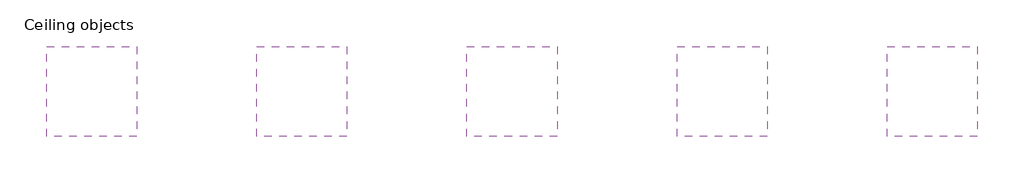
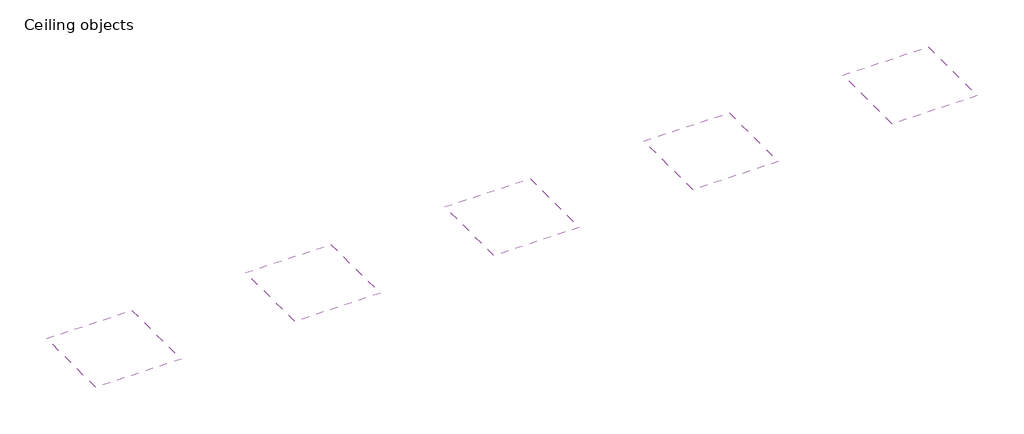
# One storey: 5 coverings.
"""IFC4 building model written with IfcOpenShell, lengths in millimetres."""

from ifc_helpers import new_model, si_unit, frame, origin, place, context, project, spatial, polyline, outline, extrude, element, save

model = new_model("IFC4")

# Units and contexts
model_context = context("Model", 3, world=origin())
ifc_project = project(units=[si_unit("LENGTHUNIT", "METRE", prefix="MILLI")], contexts=[model_context])

# Site, building, storey
site = spatial("IfcSite", under=ifc_project)
building = spatial("IfcBuilding", under=site)
storey = spatial("IfcBuildingStorey", under=building, Name="Ceiling objects", Elevation=0.0)

# Coverings
placement = place(None, origin())
element("IfcCovering", 1, ObjectType="Knauf Danoline Tectopanel Globe 600x600x12.5_B", at=placement, inside=storey, context=model_context, shape_type="SweptSolid", body=[
    extrude(outline(polyline([(-4783.0103193, 8117.0281757), (-4783.0103193, 5117.0281757), (-7783.0103193, 5117.0281757), (-7783.0103193, 8117.0281757), (-4783.0103193, 8117.0281757)])), frame((0.0, 0.0, 2600.0), z_axis=(0.0, 0.0, 1.0), x_axis=(1.0, 0.0, 0.0)), (0.0, 0.0, 1.0), 12.5),
])
element("IfcCovering", 2, ObjectType="Knauf Danoline Tectopanel Micro 600x600x12.5_B", at=placement, inside=storey, context=model_context, shape_type="SweptSolid", body=[
    extrude(outline(polyline([(2216.9899047, 8117.0281757), (2216.9899047, 5117.0281757), (-783.0100953, 5117.0281757), (-783.0100953, 8117.0281757), (2216.9899047, 8117.0281757)])), frame((0.0, 0.0, 2600.0), z_axis=(0.0, 0.0, 1.0), x_axis=(1.0, 0.0, 0.0)), (0.0, 0.0, 1.0), 12.5),
])
element("IfcCovering", 3, ObjectType="Knauf Danoline Tectopanel Quadril 600x600x12.5_B", at=placement, inside=storey, context=model_context, shape_type="SweptSolid", body=[
    extrude(outline(polyline([(9216.9901287, 8117.0281757), (9216.9901287, 5117.0281757), (6216.9901287, 5117.0281757), (6216.9901287, 8117.0281757), (9216.9901287, 8117.0281757)])), frame((0.0, 0.0, 2600.0), z_axis=(0.0, 0.0, 1.0), x_axis=(1.0, 0.0, 0.0)), (0.0, 0.0, 1.0), 12.5),
])
element("IfcCovering", 4, ObjectType="Knauf Danoline Tectopanel Regular 600x600x12.5_B", at=placement, inside=storey, context=model_context, shape_type="SweptSolid", body=[
    extrude(outline(polyline([(16216.9903527, 8117.0281757), (16216.9903527, 5117.0281757), (13216.9903527, 5117.0281757), (13216.9903527, 8117.0281757), (16216.9903527, 8117.0281757)])), frame((0.0, 0.0, 2600.0), z_axis=(0.0, 0.0, 1.0), x_axis=(1.0, 0.0, 0.0)), (0.0, 0.0, 1.0), 12.5),
])
element("IfcCovering", 5, ObjectType="Knauf Danoline Tectopanel Tangent 600x600x12.5_B", at=placement, inside=storey, context=model_context, shape_type="SweptSolid", body=[
    extrude(outline(polyline([(23216.9905767, 8117.0281757), (23216.9905767, 5117.0281757), (20216.9905767, 5117.0281757), (20216.9905767, 8117.0281757), (23216.9905767, 8117.0281757)])), frame((0.0, 0.0, 2600.0), z_axis=(0.0, 0.0, 1.0), x_axis=(1.0, 0.0, 0.0)), (0.0, 0.0, 1.0), 12.5),
])

save(model, "model.ifc")
